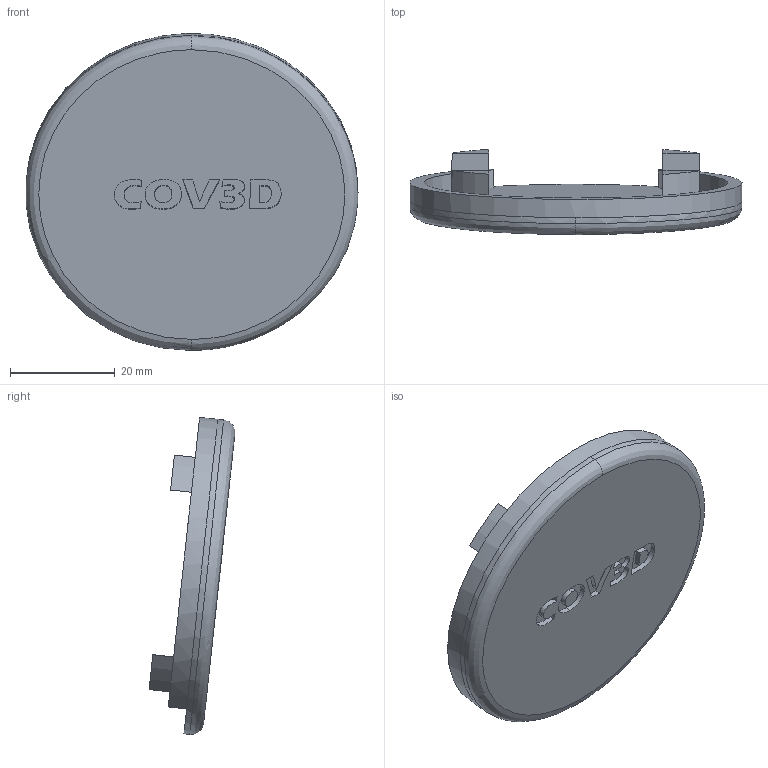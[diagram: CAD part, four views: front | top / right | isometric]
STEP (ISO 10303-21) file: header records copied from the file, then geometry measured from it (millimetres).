
FILE_DESCRIPTION(/* description */ (''),/* implementation_level */ '2;1');
FILE_NAME(/* name */ 'M-NARR~3',/* time_stamp */ '2020-04-10T21:34:09+03:00',/* author */ (''),/* organization */ (''),/* preprocessor_version */ 'ST-DEVELOPER v16.5',/* originating_system */ '',/* authorisation */ '');
FILE_SCHEMA (('AUTOMOTIVE_DESIGN'));
Length unit declared in the file: millimetre
Products named in the file (1): Document
Bounding box: 63.34 x 16.36 x 60.5 mm (x, y, z)
Volume: 12373.3 mm3; surface area: 8422 mm2
Topology: 1 solids, 1 shells, 67 faces, 158 edges, 104 vertices
Faces by surface type: bspline 44, plane 23
Entity records: 2836 total; most frequent: CARTESIAN_POINT 1768, ORIENTED_EDGE 316, EDGE_CURVE 158, B_SPLINE_CURVE_WITH_KNOTS 131, VERTEX_POINT 104, EDGE_LOOP 78, ADVANCED_FACE 67, FACE_OUTER_BOUND 67
